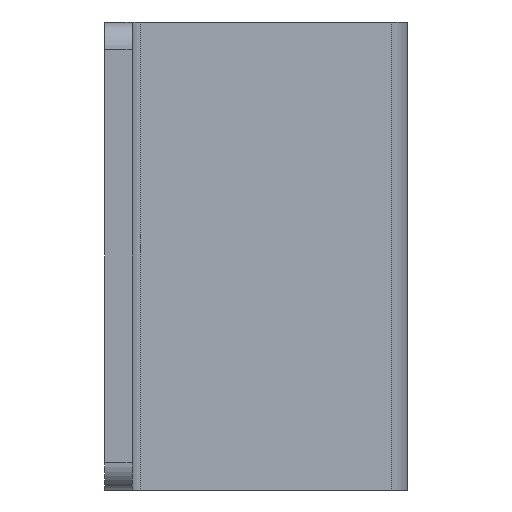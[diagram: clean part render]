
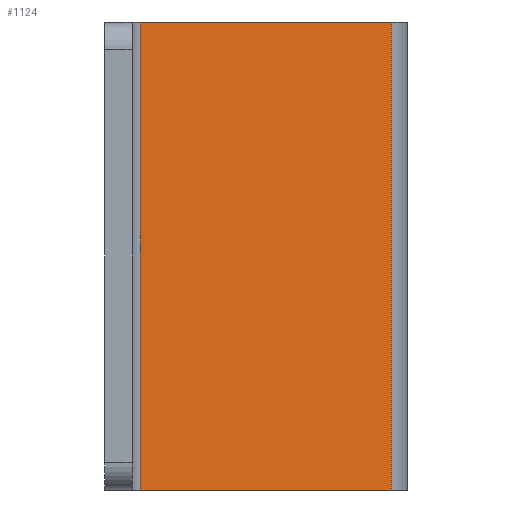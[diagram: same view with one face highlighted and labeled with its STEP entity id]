
A CAD part, front view. The second image highlights one B-rep face of the part: STEP entity #1124.
In plain terms, the highlighted planar face has unit normal (0.707, -0.707, 0).
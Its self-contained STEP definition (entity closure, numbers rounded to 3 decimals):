
#62 = DIRECTION ( 'NONE',  ( 0.707, 0.707, 0. ) ) ;
#84 = EDGE_CURVE ( 'NONE', #85, #1129, #1151, .T. ) ;
#85 = VERTEX_POINT ( 'NONE', #664 ) ;
#217 = EDGE_CURVE ( 'NONE', #548, #85, #1133, .T. ) ;
#220 = CARTESIAN_POINT ( 'NONE',  ( 3.536, 166.464, 42.5 ) ) ;
#238 = VECTOR ( 'NONE', #786, 1000. ) ;
#279 = CARTESIAN_POINT ( 'NONE',  ( 52.071, 215., 42.5 ) ) ;
#288 = DIRECTION ( 'NONE',  ( 0., 0., -1. ) ) ;
#321 = CARTESIAN_POINT ( 'NONE',  ( 52.071, 215., 42.5 ) ) ;
#352 = VECTOR ( 'NONE', #288, 1000. ) ;
#485 = CARTESIAN_POINT ( 'NONE',  ( 3.536, 166.464, 42.5 ) ) ;
#488 = FACE_OUTER_BOUND ( 'NONE', #1282, .T. ) ;
#508 = LINE ( 'NONE', #279, #352 ) ;
#548 = VERTEX_POINT ( 'NONE', #877 ) ;
#641 = ORIENTED_EDGE ( 'NONE', *, *, #792, .F. ) ;
#662 = PLANE ( 'NONE',  #1211 ) ;
#664 = CARTESIAN_POINT ( 'NONE',  ( 6.464, 169.393, -42.5 ) ) ;
#669 = DIRECTION ( 'NONE',  ( 0.707, 0.707, 0. ) ) ;
#746 = DIRECTION ( 'NONE',  ( -0.707, -0.707, 0. ) ) ;
#786 = DIRECTION ( 'NONE',  ( 0., 0., -1. ) ) ;
#792 = EDGE_CURVE ( 'NONE', #548, #1102, #1094, .T. ) ;
#837 = EDGE_CURVE ( 'NONE', #1102, #1129, #508, .T. ) ;
#840 = ORIENTED_EDGE ( 'NONE', *, *, #837, .F. ) ;
#877 = CARTESIAN_POINT ( 'NONE',  ( 6.464, 169.393, 42.5 ) ) ;
#879 = VECTOR ( 'NONE', #62, 1000. ) ;
#1092 = CARTESIAN_POINT ( 'NONE',  ( 3.536, 166.464, -42.5 ) ) ;
#1094 = LINE ( 'NONE', #485, #879 ) ;
#1102 = VERTEX_POINT ( 'NONE', #321 ) ;
#1110 = CARTESIAN_POINT ( 'NONE',  ( 6.464, 169.393, 42.5 ) ) ;
#1124 = ADVANCED_FACE ( 'NONE', ( #488 ), #662, .F. ) ;
#1129 = VERTEX_POINT ( 'NONE', #1312 ) ;
#1133 = LINE ( 'NONE', #1110, #238 ) ;
#1151 = LINE ( 'NONE', #1092, #1203 ) ;
#1188 = ORIENTED_EDGE ( 'NONE', *, *, #217, .T. ) ;
#1203 = VECTOR ( 'NONE', #669, 1000. ) ;
#1211 = AXIS2_PLACEMENT_3D ( 'NONE', #220, #1302, #746 ) ;
#1282 = EDGE_LOOP ( 'NONE', ( #1308, #840, #641, #1188 ) ) ;
#1302 = DIRECTION ( 'NONE',  ( -0.707, 0.707, 0. ) ) ;
#1308 = ORIENTED_EDGE ( 'NONE', *, *, #84, .T. ) ;
#1312 = CARTESIAN_POINT ( 'NONE',  ( 52.071, 215., -42.5 ) ) ;
